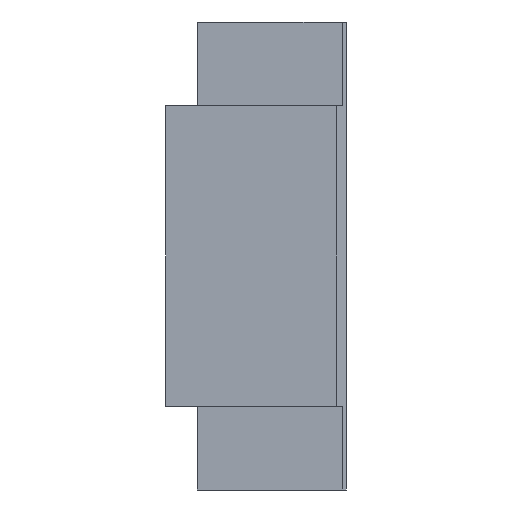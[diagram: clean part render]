
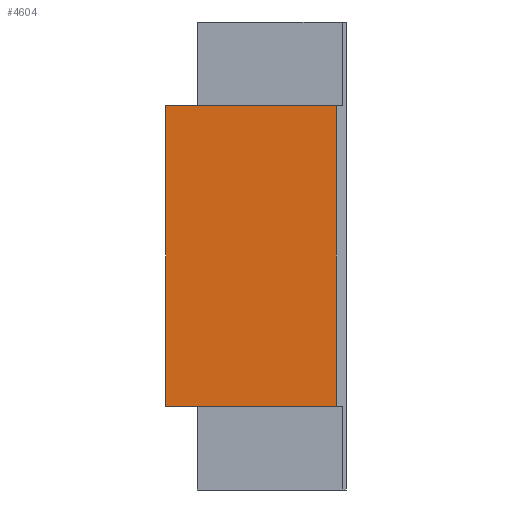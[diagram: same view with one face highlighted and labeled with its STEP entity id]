
A CAD part, left-side view. The second image highlights one B-rep face of the part: STEP entity #4604.
In plain terms, the highlighted planar face has unit normal (-1, 0, 0).
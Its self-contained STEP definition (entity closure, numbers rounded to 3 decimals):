
#328 = CARTESIAN_POINT ( 'NONE',  ( -17., -9.4, 19.7 ) ) ;
#525 = ORIENTED_EDGE ( 'NONE', *, *, #4383, .T. ) ;
#644 = DIRECTION ( 'NONE',  ( 0., 0., 1. ) ) ;
#661 = DIRECTION ( 'NONE',  ( -1., 0., 0. ) ) ;
#700 = PLANE ( 'NONE',  #4925 ) ;
#958 = VECTOR ( 'NONE', #2684, 1000. ) ;
#998 = CARTESIAN_POINT ( 'NONE',  ( -17., 13., 19.7 ) ) ;
#1134 = LINE ( 'NONE', #2759, #958 ) ;
#1285 = VERTEX_POINT ( 'NONE', #328 ) ;
#1514 = VECTOR ( 'NONE', #5372, 1000. ) ;
#1623 = FACE_OUTER_BOUND ( 'NONE', #4728, .T. ) ;
#1658 = LINE ( 'NONE', #4469, #1514 ) ;
#1955 = VECTOR ( 'NONE', #2559, 1000. ) ;
#1994 = LINE ( 'NONE', #2601, #1955 ) ;
#2098 = DIRECTION ( 'NONE',  ( 0., 0., 1. ) ) ;
#2309 = LINE ( 'NONE', #2346, #2331 ) ;
#2331 = VECTOR ( 'NONE', #2098, 1000. ) ;
#2346 = CARTESIAN_POINT ( 'NONE',  ( -17., -9.4, 19.7 ) ) ;
#2469 = ORIENTED_EDGE ( 'NONE', *, *, #4127, .T. ) ;
#2559 = DIRECTION ( 'NONE',  ( 0., -1., 0. ) ) ;
#2581 = VERTEX_POINT ( 'NONE', #3156 ) ;
#2597 = ORIENTED_EDGE ( 'NONE', *, *, #4999, .T. ) ;
#2601 = CARTESIAN_POINT ( 'NONE',  ( -17., 13., -19.7 ) ) ;
#2684 = DIRECTION ( 'NONE',  ( 0., 0., -1. ) ) ;
#2759 = CARTESIAN_POINT ( 'NONE',  ( -17., 13., 19.7 ) ) ;
#2934 = CARTESIAN_POINT ( 'NONE',  ( -17., -9.4, -19.7 ) ) ;
#2942 = VERTEX_POINT ( 'NONE', #3523 ) ;
#3057 = VERTEX_POINT ( 'NONE', #2934 ) ;
#3156 = CARTESIAN_POINT ( 'NONE',  ( -17., 13., 19.7 ) ) ;
#3163 = ORIENTED_EDGE ( 'NONE', *, *, #4656, .F. ) ;
#3523 = CARTESIAN_POINT ( 'NONE',  ( -17., 13., -19.7 ) ) ;
#4127 = EDGE_CURVE ( 'NONE', #3057, #1285, #2309, .T. ) ;
#4383 = EDGE_CURVE ( 'NONE', #2942, #3057, #1994, .T. ) ;
#4469 = CARTESIAN_POINT ( 'NONE',  ( -17., 13., 19.7 ) ) ;
#4604 = ADVANCED_FACE ( 'NONE', ( #1623 ), #700, .T. ) ;
#4656 = EDGE_CURVE ( 'NONE', #2581, #1285, #1658, .T. ) ;
#4728 = EDGE_LOOP ( 'NONE', ( #525, #2469, #3163, #2597 ) ) ;
#4925 = AXIS2_PLACEMENT_3D ( 'NONE', #998, #661, #644 ) ;
#4999 = EDGE_CURVE ( 'NONE', #2581, #2942, #1134, .T. ) ;
#5372 = DIRECTION ( 'NONE',  ( 0., -1., 0. ) ) ;
